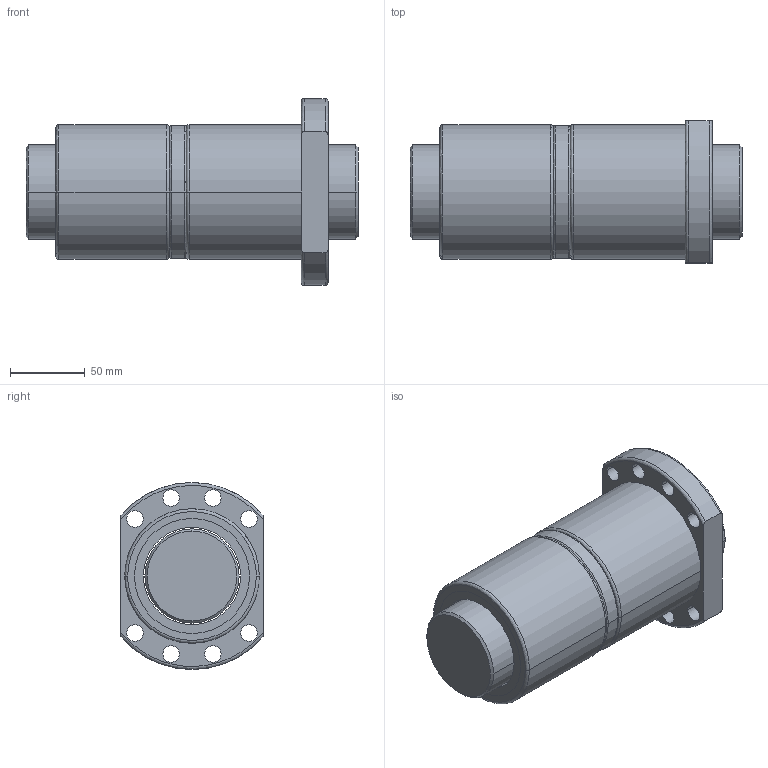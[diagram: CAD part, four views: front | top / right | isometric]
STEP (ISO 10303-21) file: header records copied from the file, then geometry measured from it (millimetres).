
FILE_DESCRIPTION (( 'STEP AP203' ), '1' );
FILE_NAME ('DFU06310.STEP', '2013-01-21T15:31:42', ( 'Halezer' ), ( '' ), 'SwSTEP 2.0', 'SolidWorks 2010', '' );
FILE_SCHEMA (( 'CONFIG_CONTROL_DESIGN' ));
Length unit declared in the file: millimetre
Products named in the file (1): DFU06310
Bounding box: 222 x 95 x 125 mm (x, y, z)
Volume: 1305452.8 mm3; surface area: 181787.5 mm2
Topology: 6 solids, 6 shells, 79 faces, 180 edges, 116 vertices
Faces by surface type: cylinder 44, plane 17, bspline 14, cone 4
Entity records: 3141 total; most frequent: CARTESIAN_POINT 1244, DIRECTION 394, ORIENTED_EDGE 360, EDGE_CURVE 180, AXIS2_PLACEMENT_3D 170, VERTEX_POINT 116, EDGE_LOOP 108, CIRCLE 104
